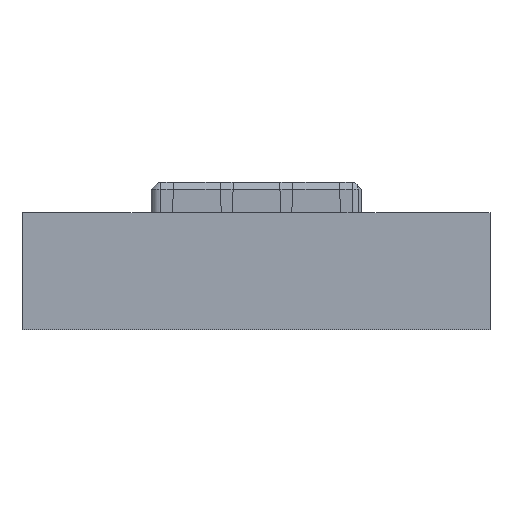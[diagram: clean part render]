
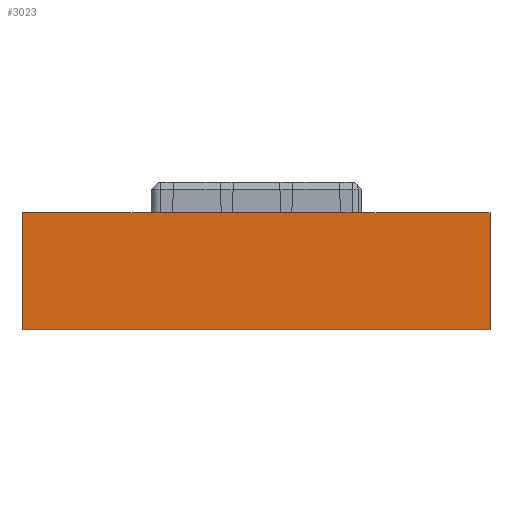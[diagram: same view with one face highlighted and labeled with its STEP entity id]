
A CAD part, front view. The second image highlights one B-rep face of the part: STEP entity #3023.
In plain terms, the highlighted planar face has unit normal (0, -1, 0).
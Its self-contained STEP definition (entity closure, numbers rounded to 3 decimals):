
#1838 = PLANE('',#1839);
#1839 = AXIS2_PLACEMENT_3D('',#1840,#1841,#1842);
#1840 = CARTESIAN_POINT('',(-0.024,80.048,-5.));
#1841 = DIRECTION('',(0.,0.,1.));
#1842 = DIRECTION('',(0.,1.,0.));
#2380 = PLANE('',#2381);
#2381 = AXIS2_PLACEMENT_3D('',#2382,#2383,#2384);
#2382 = CARTESIAN_POINT('',(0.,0.,
    0.));
#2383 = DIRECTION('',(0.,0.,1.));
#2384 = DIRECTION('',(1.,0.,-0.));
#3023 = ADVANCED_FACE('',(#3024),#3038,.T.);
#3024 = FACE_BOUND('',#3025,.T.);
#3025 = EDGE_LOOP('',(#3026,#3056,#3084,#3107));
#3026 = ORIENTED_EDGE('',*,*,#3027,.F.);
#3027 = EDGE_CURVE('',#3028,#3030,#3032,.T.);
#3028 = VERTEX_POINT('',#3029);
#3029 = CARTESIAN_POINT('',(10.,-10.,-5.));
#3030 = VERTEX_POINT('',#3031);
#3031 = CARTESIAN_POINT('',(-10.,-10.,-5.));
#3032 = SURFACE_CURVE('',#3033,(#3037,#3049),.PCURVE_S1.);
#3033 = LINE('',#3034,#3035);
#3034 = CARTESIAN_POINT('',(-5.512,-10.,-5.));
#3035 = VECTOR('',#3036,1.);
#3036 = DIRECTION('',(-1.,0.,0.));
#3037 = PCURVE('',#3038,#3043);
#3038 = PLANE('',#3039);
#3039 = AXIS2_PLACEMENT_3D('',#3040,#3041,#3042);
#3040 = CARTESIAN_POINT('',(-11.,-10.,-5.));
#3041 = DIRECTION('',(0.,-1.,0.));
#3042 = DIRECTION('',(1.,0.,0.));
#3043 = DEFINITIONAL_REPRESENTATION('',(#3044),#3048);
#3044 = LINE('',#3045,#3046);
#3045 = CARTESIAN_POINT('',(5.488,0.));
#3046 = VECTOR('',#3047,1.);
#3047 = DIRECTION('',(-1.,0.));
#3048 = ( GEOMETRIC_REPRESENTATION_CONTEXT(2) 
PARAMETRIC_REPRESENTATION_CONTEXT() REPRESENTATION_CONTEXT('2D SPACE',''
  ) );
#3049 = PCURVE('',#1838,#3050);
#3050 = DEFINITIONAL_REPRESENTATION('',(#3051),#3055);
#3051 = LINE('',#3052,#3053);
#3052 = CARTESIAN_POINT('',(-90.048,5.488));
#3053 = VECTOR('',#3054,1.);
#3054 = DIRECTION('',(0.,1.));
#3055 = ( GEOMETRIC_REPRESENTATION_CONTEXT(2) 
PARAMETRIC_REPRESENTATION_CONTEXT() REPRESENTATION_CONTEXT('2D SPACE',''
  ) );
#3056 = ORIENTED_EDGE('',*,*,#3057,.F.);
#3057 = EDGE_CURVE('',#3058,#3028,#3060,.T.);
#3058 = VERTEX_POINT('',#3059);
#3059 = CARTESIAN_POINT('',(10.,-10.,0.));
#3060 = SURFACE_CURVE('',#3061,(#3065,#3072),.PCURVE_S1.);
#3061 = LINE('',#3062,#3063);
#3062 = CARTESIAN_POINT('',(10.,-10.,-5.));
#3063 = VECTOR('',#3064,1.);
#3064 = DIRECTION('',(0.,0.,-1.));
#3065 = PCURVE('',#3038,#3066);
#3066 = DEFINITIONAL_REPRESENTATION('',(#3067),#3071);
#3067 = LINE('',#3068,#3069);
#3068 = CARTESIAN_POINT('',(21.,0.));
#3069 = VECTOR('',#3070,1.);
#3070 = DIRECTION('',(0.,-1.));
#3071 = ( GEOMETRIC_REPRESENTATION_CONTEXT(2) 
PARAMETRIC_REPRESENTATION_CONTEXT() REPRESENTATION_CONTEXT('2D SPACE',''
  ) );
#3072 = PCURVE('',#3073,#3078);
#3073 = PLANE('',#3074);
#3074 = AXIS2_PLACEMENT_3D('',#3075,#3076,#3077);
#3075 = CARTESIAN_POINT('',(10.,-11.,-5.));
#3076 = DIRECTION('',(1.,0.,0.));
#3077 = DIRECTION('',(0.,1.,0.));
#3078 = DEFINITIONAL_REPRESENTATION('',(#3079),#3083);
#3079 = LINE('',#3080,#3081);
#3080 = CARTESIAN_POINT('',(1.,0.));
#3081 = VECTOR('',#3082,1.);
#3082 = DIRECTION('',(0.,-1.));
#3083 = ( GEOMETRIC_REPRESENTATION_CONTEXT(2) 
PARAMETRIC_REPRESENTATION_CONTEXT() REPRESENTATION_CONTEXT('2D SPACE',''
  ) );
#3084 = ORIENTED_EDGE('',*,*,#3085,.T.);
#3085 = EDGE_CURVE('',#3058,#3086,#3088,.T.);
#3086 = VERTEX_POINT('',#3087);
#3087 = CARTESIAN_POINT('',(-10.,-10.,0.));
#3088 = SURFACE_CURVE('',#3089,(#3093,#3100),.PCURVE_S1.);
#3089 = LINE('',#3090,#3091);
#3090 = CARTESIAN_POINT('',(-5.5,-10.,0.));
#3091 = VECTOR('',#3092,1.);
#3092 = DIRECTION('',(-1.,0.,0.));
#3093 = PCURVE('',#3038,#3094);
#3094 = DEFINITIONAL_REPRESENTATION('',(#3095),#3099);
#3095 = LINE('',#3096,#3097);
#3096 = CARTESIAN_POINT('',(5.5,5.));
#3097 = VECTOR('',#3098,1.);
#3098 = DIRECTION('',(-1.,0.));
#3099 = ( GEOMETRIC_REPRESENTATION_CONTEXT(2) 
PARAMETRIC_REPRESENTATION_CONTEXT() REPRESENTATION_CONTEXT('2D SPACE',''
  ) );
#3100 = PCURVE('',#2380,#3101);
#3101 = DEFINITIONAL_REPRESENTATION('',(#3102),#3106);
#3102 = LINE('',#3103,#3104);
#3103 = CARTESIAN_POINT('',(-5.5,-10.));
#3104 = VECTOR('',#3105,1.);
#3105 = DIRECTION('',(-1.,0.));
#3106 = ( GEOMETRIC_REPRESENTATION_CONTEXT(2) 
PARAMETRIC_REPRESENTATION_CONTEXT() REPRESENTATION_CONTEXT('2D SPACE',''
  ) );
#3107 = ORIENTED_EDGE('',*,*,#3108,.F.);
#3108 = EDGE_CURVE('',#3030,#3086,#3109,.T.);
#3109 = SURFACE_CURVE('',#3110,(#3114,#3121),.PCURVE_S1.);
#3110 = LINE('',#3111,#3112);
#3111 = CARTESIAN_POINT('',(-10.,-10.,-5.));
#3112 = VECTOR('',#3113,1.);
#3113 = DIRECTION('',(0.,0.,1.));
#3114 = PCURVE('',#3038,#3115);
#3115 = DEFINITIONAL_REPRESENTATION('',(#3116),#3120);
#3116 = LINE('',#3117,#3118);
#3117 = CARTESIAN_POINT('',(1.,0.));
#3118 = VECTOR('',#3119,1.);
#3119 = DIRECTION('',(0.,1.));
#3120 = ( GEOMETRIC_REPRESENTATION_CONTEXT(2) 
PARAMETRIC_REPRESENTATION_CONTEXT() REPRESENTATION_CONTEXT('2D SPACE',''
  ) );
#3121 = PCURVE('',#3122,#3127);
#3122 = PLANE('',#3123);
#3123 = AXIS2_PLACEMENT_3D('',#3124,#3125,#3126);
#3124 = CARTESIAN_POINT('',(-10.,11.,-5.));
#3125 = DIRECTION('',(-1.,0.,0.));
#3126 = DIRECTION('',(0.,-1.,0.));
#3127 = DEFINITIONAL_REPRESENTATION('',(#3128),#3132);
#3128 = LINE('',#3129,#3130);
#3129 = CARTESIAN_POINT('',(21.,0.));
#3130 = VECTOR('',#3131,1.);
#3131 = DIRECTION('',(0.,1.));
#3132 = ( GEOMETRIC_REPRESENTATION_CONTEXT(2) 
PARAMETRIC_REPRESENTATION_CONTEXT() REPRESENTATION_CONTEXT('2D SPACE',''
  ) );
